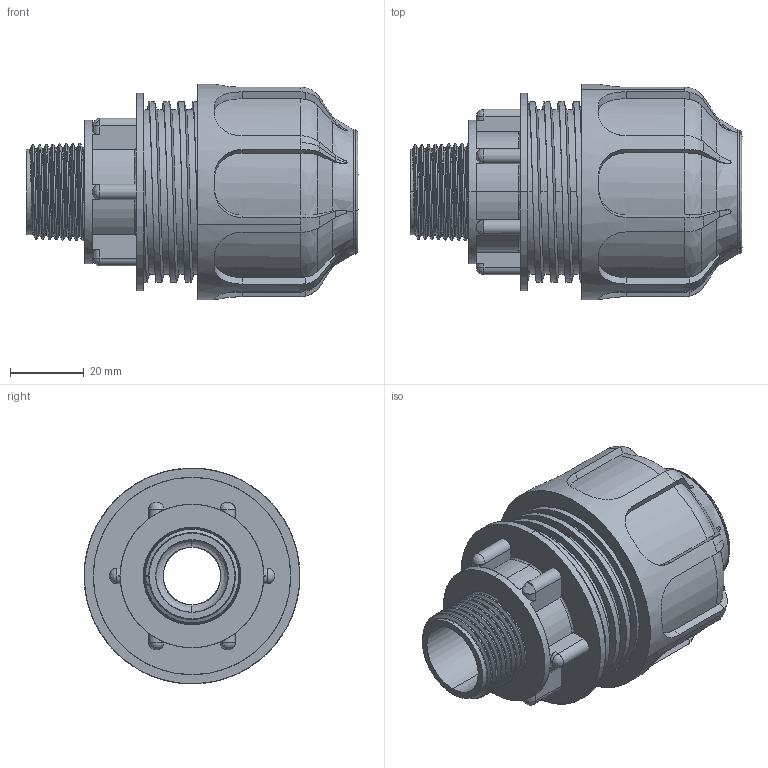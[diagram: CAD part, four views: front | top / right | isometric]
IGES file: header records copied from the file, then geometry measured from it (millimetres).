
Start section: SolidWorks IGES file using analytic representation for surfaces
Global section: file name: P:\DisegniUfficioTecnico\Articoli\ARTICOLI_3D\DISEGNI_STEP_IGS_SITO\02004\02004_IGS\02004.0520 (1).IGS; native system: SolidWorks 2011; preprocessor: SolidWorks 2011; author: giacomo; date: 170522.155203; units: millimetre
Bounding box: 90.19 x 58.6 x 58.6 mm (x, y, z)
Surface area: 51744.6 mm2 (no closed solid volume)
Topology: 0 solids, 0 shells, 430 faces, 9607 edges, 9600 vertices
Faces by surface type: bspline 243, revolution 187
